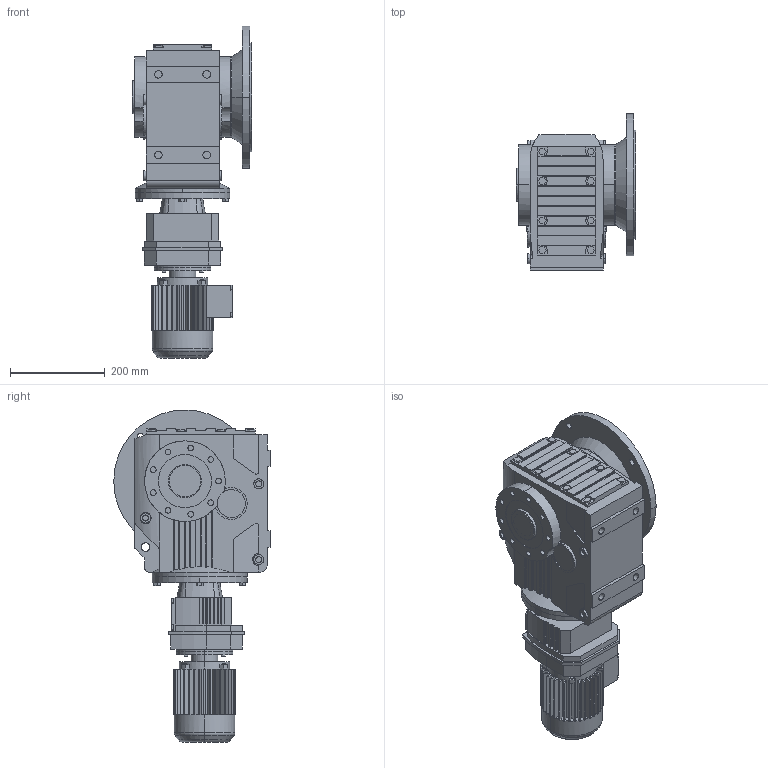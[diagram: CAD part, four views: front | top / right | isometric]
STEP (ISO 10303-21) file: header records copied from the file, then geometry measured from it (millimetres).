
FILE_DESCRIPTION(('Open CASCADE Model'),'2;1');
FILE_NAME('Open CASCADE Shape Model','2021-07-24T17:59:04',('Author'),( 'Open CASCADE'),'Open CASCADE STEP processor 6.3','Open CASCADE 6.3' ,'Unknown');
FILE_SCHEMA(('AUTOMOTIVE_DESIGN_CC2 { 1 2 10303 214 -1 1 5 4 }'));
Length unit declared in the file: millimetre
Products named in the file (6): 1_KAF77R37DR63-A; KA37‵107_77.step; 萇儂_120-DR63-191-246-132-105.step; R_77_37.step; す瑩諾陑粣K_77.step; 楊擘K_77.step
Assembly tree (5 placements, depth 2):
  1_KAF77R37DR63-A
    KA37‵107_77.step
    萇儂_120-DR63-191-246-132-105.step
    R_77_37.step
    す瑩諾陑粣K_77.step
    楊擘K_77.step
Bounding box: 252.05 x 330 x 700 mm (x, y, z)
Volume: 19156622.5 mm3; surface area: 1086927.7 mm2
Topology: 5 solids, 5 shells, 1123 faces, 2942 edges, 1924 vertices
Faces by surface type: plane 751, cylinder 350, cone 18, torus 4
Entity records: 81715 total; most frequent: CARTESIAN_POINT 25955, DIRECTION 9481, ORIENTED_EDGE 5884, PCURVE 5884, DEFINITIONAL_REPRESENTATION 5884, LINE 5188, VECTOR 5188, EDGE_CURVE 2942
